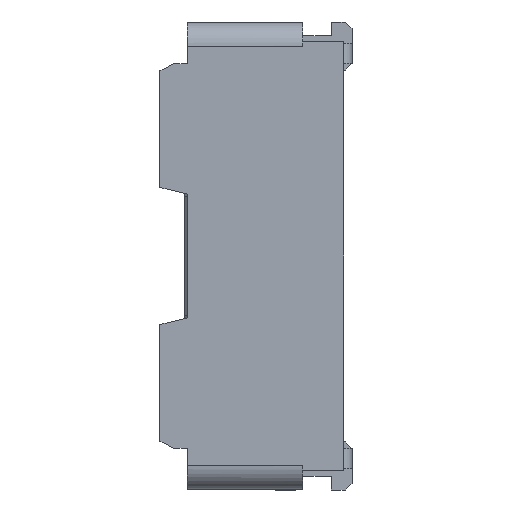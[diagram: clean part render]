
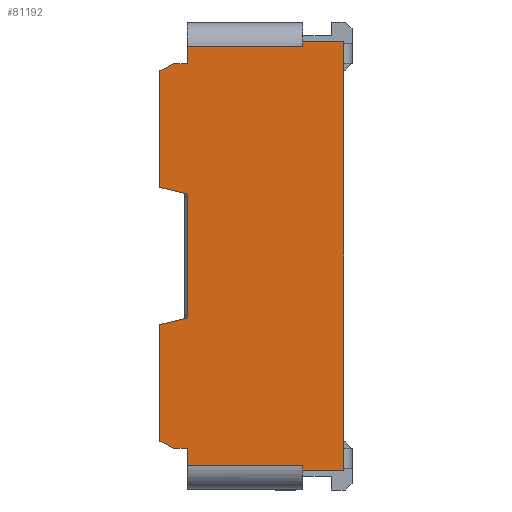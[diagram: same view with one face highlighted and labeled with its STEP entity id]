
A CAD part, left-side view. The second image highlights one B-rep face of the part: STEP entity #81192.
In plain terms, the highlighted planar face has unit normal (-1, 0, 0).
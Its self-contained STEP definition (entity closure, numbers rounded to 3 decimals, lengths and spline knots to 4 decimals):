
#3545=DIRECTION('',(0.,1.,0.));
#3546=VECTOR('',#3545,0.1);
#3547=CARTESIAN_POINT('',(-5.55,0.57,1.4));
#3548=LINE('',#3547,#3546);
#5627=DIRECTION('',(0.,0.,-1.));
#5628=VECTOR('',#5627,3.12);
#5629=CARTESIAN_POINT('',(-5.55,-0.57,1.56));
#5630=LINE('',#5629,#5628);
#29315=DIRECTION('',(0.,0.,1.));
#29316=VECTOR('',#29315,0.85);
#29317=CARTESIAN_POINT('',(-5.55,0.77,0.5));
#29318=LINE('',#29317,#29316);
#29340=DIRECTION('',(0.,0.,1.));
#29341=VECTOR('',#29340,0.85);
#29342=CARTESIAN_POINT('',(-5.55,0.77,-1.35));
#29343=LINE('',#29342,#29341);
#29554=DIRECTION('',(0.,0.,-1.));
#29555=VECTOR('',#29554,0.125);
#29556=CARTESIAN_POINT('',(-5.55,0.57,1.525));
#29557=LINE('',#29556,#29555);
#29558=DIRECTION('',(0.,-1.,0.));
#29559=VECTOR('',#29558,0.84);
#29560=CARTESIAN_POINT('',(-5.55,0.57,1.525));
#29561=LINE('',#29560,#29559);
#29562=DIRECTION('',(0.,0.,1.));
#29563=VECTOR('',#29562,0.035);
#29564=CARTESIAN_POINT('',(-5.55,-0.27,1.525));
#29565=LINE('',#29564,#29563);
#29566=DIRECTION('',(0.,1.,0.));
#29567=VECTOR('',#29566,0.3);
#29568=CARTESIAN_POINT('',(-5.55,-0.57,1.56));
#29569=LINE('',#29568,#29567);
#29570=DIRECTION('',(0.,1.,0.));
#29571=VECTOR('',#29570,0.3);
#29572=CARTESIAN_POINT('',(-5.55,-0.57,-1.56));
#29573=LINE('',#29572,#29571);
#29574=DIRECTION('',(0.,0.,-1.));
#29575=VECTOR('',#29574,0.035);
#29576=CARTESIAN_POINT('',(-5.55,-0.27,-1.525));
#29577=LINE('',#29576,#29575);
#29578=DIRECTION('',(0.,1.,0.));
#29579=VECTOR('',#29578,0.84);
#29580=CARTESIAN_POINT('',(-5.55,-0.27,-1.525));
#29581=LINE('',#29580,#29579);
#29582=DIRECTION('',(0.,0.,-1.));
#29583=VECTOR('',#29582,0.125);
#29584=CARTESIAN_POINT('',(-5.55,0.57,-1.4));
#29585=LINE('',#29584,#29583);
#29586=DIRECTION('',(0.,1.,0.));
#29587=VECTOR('',#29586,0.1);
#29588=CARTESIAN_POINT('',(-5.55,0.57,-1.4));
#29589=LINE('',#29588,#29587);
#29590=DIRECTION('',(0.,-0.894,-0.447));
#29591=VECTOR('',#29590,0.1118);
#29592=CARTESIAN_POINT('',(-5.55,0.77,-1.35));
#29593=LINE('',#29592,#29591);
#29594=DIRECTION('',(0.,0.97,-0.243));
#29595=VECTOR('',#29594,0.2062);
#29596=CARTESIAN_POINT('',(-5.55,0.57,-0.45));
#29597=LINE('',#29596,#29595);
#29598=DIRECTION('',(0.,0.,-1.));
#29599=VECTOR('',#29598,0.9);
#29600=CARTESIAN_POINT('',(-5.55,0.57,0.45));
#29601=LINE('',#29600,#29599);
#29602=DIRECTION('',(0.,-0.97,-0.243));
#29603=VECTOR('',#29602,0.2062);
#29604=CARTESIAN_POINT('',(-5.55,0.77,0.5));
#29605=LINE('',#29604,#29603);
#29606=DIRECTION('',(0.,0.894,-0.447));
#29607=VECTOR('',#29606,0.1118);
#29608=CARTESIAN_POINT('',(-5.55,0.67,1.4));
#29609=LINE('',#29608,#29607);
#30097=CARTESIAN_POINT('',(-5.55,-0.57,1.56));
#30098=CARTESIAN_POINT('',(-5.55,-0.57,-1.56));
#30099=VERTEX_POINT('',#30097);
#30100=VERTEX_POINT('',#30098);
#30189=CARTESIAN_POINT('',(-5.55,0.57,1.4));
#30191=VERTEX_POINT('',#30189);
#30193=CARTESIAN_POINT('',(-5.55,0.57,-1.4));
#30195=VERTEX_POINT('',#30193);
#31062=CARTESIAN_POINT('',(-5.55,-0.27,-1.56));
#31064=VERTEX_POINT('',#31062);
#31069=CARTESIAN_POINT('',(-5.55,0.57,1.525));
#31070=CARTESIAN_POINT('',(-5.55,-0.27,1.525));
#31071=VERTEX_POINT('',#31069);
#31072=VERTEX_POINT('',#31070);
#31075=CARTESIAN_POINT('',(-5.55,-0.27,1.56));
#31076=VERTEX_POINT('',#31075);
#31080=CARTESIAN_POINT('',(-5.55,0.57,-1.525));
#31082=VERTEX_POINT('',#31080);
#31083=CARTESIAN_POINT('',(-5.55,-0.27,-1.525));
#31084=VERTEX_POINT('',#31083);
#31271=CARTESIAN_POINT('',(-5.55,0.67,1.4));
#31273=VERTEX_POINT('',#31271);
#31275=CARTESIAN_POINT('',(-5.55,0.77,1.35));
#31277=VERTEX_POINT('',#31275);
#31280=CARTESIAN_POINT('',(-5.55,0.77,-1.35));
#31282=VERTEX_POINT('',#31280);
#31284=CARTESIAN_POINT('',(-5.55,0.67,-1.4));
#31286=VERTEX_POINT('',#31284);
#31319=CARTESIAN_POINT('',(-5.55,0.77,0.5));
#31320=CARTESIAN_POINT('',(-5.55,0.57,0.45));
#31321=VERTEX_POINT('',#31319);
#31322=VERTEX_POINT('',#31320);
#31331=CARTESIAN_POINT('',(-5.55,0.57,-0.45));
#31332=CARTESIAN_POINT('',(-5.55,0.77,-0.5));
#31333=VERTEX_POINT('',#31331);
#31334=VERTEX_POINT('',#31332);
#81160=CARTESIAN_POINT('',(-5.55,0.57,1.7));
#81161=DIRECTION('',(-1.,0.,0.));
#81162=DIRECTION('',(0.,-1.,0.));
#81163=AXIS2_PLACEMENT_3D('',#81160,#81161,#81162);
#81164=PLANE('',#81163);
#81165=ORIENTED_EDGE('',*,*,#42987,.F.);
#81166=ORIENTED_EDGE('',*,*,#40177,.F.);
#81168=ORIENTED_EDGE('',*,*,#81167,.T.);
#81170=ORIENTED_EDGE('',*,*,#81169,.T.);
#81171=ORIENTED_EDGE('',*,*,#42553,.F.);
#81172=ORIENTED_EDGE('',*,*,#45249,.T.);
#81173=ORIENTED_EDGE('',*,*,#43950,.T.);
#81175=ORIENTED_EDGE('',*,*,#81174,.F.);
#81177=ORIENTED_EDGE('',*,*,#81176,.T.);
#81178=ORIENTED_EDGE('',*,*,#40200,.F.);
#81179=ORIENTED_EDGE('',*,*,#43206,.T.);
#81181=ORIENTED_EDGE('',*,*,#81180,.F.);
#81182=ORIENTED_EDGE('',*,*,#80776,.T.);
#81184=ORIENTED_EDGE('',*,*,#81183,.F.);
#81185=ORIENTED_EDGE('',*,*,#40230,.F.);
#81187=ORIENTED_EDGE('',*,*,#81186,.F.);
#81188=ORIENTED_EDGE('',*,*,#80756,.T.);
#81189=ORIENTED_EDGE('',*,*,#81153,.F.);
#81190=EDGE_LOOP('',(#81165,#81166,#81168,#81170,#81171,#81172,#81173,#81175,
#81177,#81178,#81179,#81181,#81182,#81184,#81185,#81187,#81188,#81189));
#81191=FACE_OUTER_BOUND('',#81190,.F.);
#81192=ADVANCED_FACE('',(#81191),#81164,.T.);
#40177=EDGE_CURVE('',#31071,#30191,#29557,.T.);
#40200=EDGE_CURVE('',#30195,#31082,#29585,.T.);
#40230=EDGE_CURVE('',#31322,#31333,#29601,.T.);
#42553=EDGE_CURVE('',#30099,#31076,#29569,.T.);
#42987=EDGE_CURVE('',#30191,#31273,#3548,.T.);
#43206=EDGE_CURVE('',#30195,#31286,#29589,.T.);
#43950=EDGE_CURVE('',#30100,#31064,#29573,.T.);
#45249=EDGE_CURVE('',#30099,#30100,#5630,.T.);
#80756=EDGE_CURVE('',#31321,#31277,#29318,.T.);
#80776=EDGE_CURVE('',#31282,#31334,#29343,.T.);
#81153=EDGE_CURVE('',#31273,#31277,#29609,.T.);
#81167=EDGE_CURVE('',#31071,#31072,#29561,.T.);
#81169=EDGE_CURVE('',#31072,#31076,#29565,.T.);
#81174=EDGE_CURVE('',#31084,#31064,#29577,.T.);
#81176=EDGE_CURVE('',#31084,#31082,#29581,.T.);
#81180=EDGE_CURVE('',#31282,#31286,#29593,.T.);
#81183=EDGE_CURVE('',#31333,#31334,#29597,.T.);
#81186=EDGE_CURVE('',#31321,#31322,#29605,.T.);
